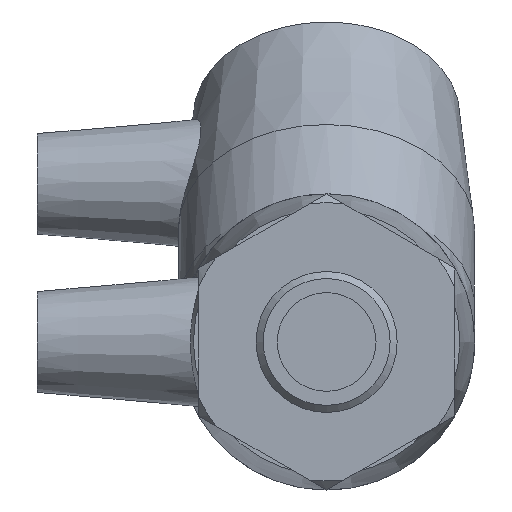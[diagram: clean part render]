
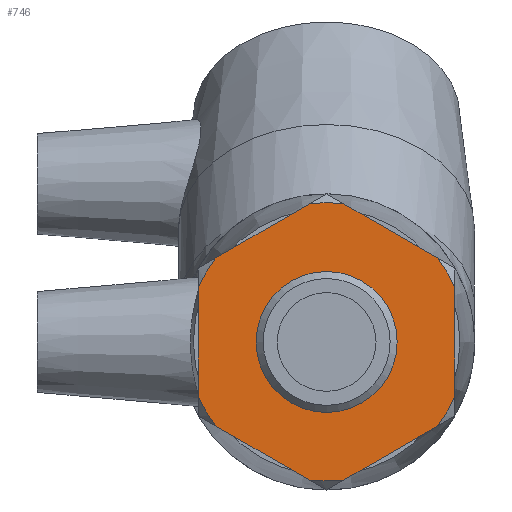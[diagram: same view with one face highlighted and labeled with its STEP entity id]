
A CAD part, left-side view. The second image highlights one B-rep face of the part: STEP entity #746.
In plain terms, the highlighted planar face has unit normal (-1, 0, 0).
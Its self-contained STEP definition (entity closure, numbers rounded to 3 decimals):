
#19=LINE('',#1163,#37);
#23=LINE('',#1187,#41);
#26=LINE('',#1209,#44);
#29=LINE('',#1231,#47);
#34=LINE('',#1268,#52);
#36=LINE('',#1287,#54);
#37=VECTOR('',#926,16.083);
#41=VECTOR('',#932,16.083);
#44=VECTOR('',#937,16.083);
#47=VECTOR('',#942,16.083);
#52=VECTOR('',#949,16.083);
#54=VECTOR('',#953,16.083);
#101=PLANE('',#813);
#121=FACE_BOUND('',#228,.T.);
#165=FACE_OUTER_BOUND('',#227,.T.);
#227=EDGE_LOOP('',(#584,#585,#586,#587,#588,#589,#590,#591,#592,#593,#594,
#595));
#228=EDGE_LOOP('',(#596));
#315=CIRCLE('',#806,10.478);
#316=CIRCLE('',#814,20.68);
#317=CIRCLE('',#815,20.68);
#318=CIRCLE('',#816,20.68);
#319=CIRCLE('',#817,20.68);
#320=CIRCLE('',#818,20.68);
#321=CIRCLE('',#819,20.68);
#364=VERTEX_POINT('',#1154);
#365=VERTEX_POINT('',#1157);
#367=VERTEX_POINT('',#1162);
#373=VERTEX_POINT('',#1182);
#374=VERTEX_POINT('',#1186);
#379=VERTEX_POINT('',#1204);
#380=VERTEX_POINT('',#1208);
#385=VERTEX_POINT('',#1226);
#386=VERTEX_POINT('',#1230);
#392=VERTEX_POINT('',#1249);
#396=VERTEX_POINT('',#1264);
#397=VERTEX_POINT('',#1270);
#400=VERTEX_POINT('',#1283);
#439=EDGE_CURVE('',#364,#364,#315,.T.);
#441=EDGE_CURVE('',#367,#365,#19,.T.);
#449=EDGE_CURVE('',#374,#373,#23,.T.);
#456=EDGE_CURVE('',#380,#379,#26,.T.);
#463=EDGE_CURVE('',#386,#385,#29,.T.);
#475=EDGE_CURVE('',#392,#396,#34,.T.);
#481=EDGE_CURVE('',#397,#400,#36,.T.);
#482=EDGE_CURVE('',#392,#400,#316,.T.);
#483=EDGE_CURVE('',#386,#396,#317,.T.);
#484=EDGE_CURVE('',#380,#385,#318,.T.);
#485=EDGE_CURVE('',#374,#379,#319,.T.);
#486=EDGE_CURVE('',#367,#373,#320,.T.);
#487=EDGE_CURVE('',#397,#365,#321,.T.);
#584=ORIENTED_EDGE('',*,*,#481,.T.);
#585=ORIENTED_EDGE('',*,*,#482,.F.);
#586=ORIENTED_EDGE('',*,*,#475,.T.);
#587=ORIENTED_EDGE('',*,*,#483,.F.);
#588=ORIENTED_EDGE('',*,*,#463,.T.);
#589=ORIENTED_EDGE('',*,*,#484,.F.);
#590=ORIENTED_EDGE('',*,*,#456,.T.);
#591=ORIENTED_EDGE('',*,*,#485,.F.);
#592=ORIENTED_EDGE('',*,*,#449,.T.);
#593=ORIENTED_EDGE('',*,*,#486,.F.);
#594=ORIENTED_EDGE('',*,*,#441,.T.);
#595=ORIENTED_EDGE('',*,*,#487,.F.);
#596=ORIENTED_EDGE('',*,*,#439,.T.);
#746=ADVANCED_FACE('',(#165,#121),#101,.T.);
#806=AXIS2_PLACEMENT_3D('',#1155,#922,#923);
#813=AXIS2_PLACEMENT_3D('',#1288,#954,#955);
#814=AXIS2_PLACEMENT_3D('',#1289,#956,#957);
#815=AXIS2_PLACEMENT_3D('',#1290,#958,#959);
#816=AXIS2_PLACEMENT_3D('',#1291,#960,#961);
#817=AXIS2_PLACEMENT_3D('',#1292,#962,#963);
#818=AXIS2_PLACEMENT_3D('',#1293,#964,#965);
#819=AXIS2_PLACEMENT_3D('',#1294,#966,#967);
#922=DIRECTION('center_axis',(1.,0.,0.));
#923=DIRECTION('ref_axis',(0.,0.,-1.));
#926=DIRECTION('',(0.,0.,-1.));
#932=DIRECTION('',(0.,0.866,-0.5));
#937=DIRECTION('',(0.,0.866,0.5));
#942=DIRECTION('',(0.,0.,1.));
#949=DIRECTION('',(0.,-0.866,0.5));
#953=DIRECTION('',(0.,-0.866,-0.5));
#954=DIRECTION('center_axis',(-1.,0.,0.));
#955=DIRECTION('ref_axis',(0.,0.,1.));
#956=DIRECTION('center_axis',(1.,0.,0.));
#957=DIRECTION('ref_axis',(0.,0.,1.));
#958=DIRECTION('center_axis',(1.,0.,0.));
#959=DIRECTION('ref_axis',(0.,0.,1.));
#960=DIRECTION('center_axis',(1.,0.,0.));
#961=DIRECTION('ref_axis',(0.,0.,1.));
#962=DIRECTION('center_axis',(1.,0.,0.));
#963=DIRECTION('ref_axis',(0.,0.,1.));
#964=DIRECTION('center_axis',(1.,0.,0.));
#965=DIRECTION('ref_axis',(0.,0.,1.));
#966=DIRECTION('center_axis',(1.,0.,0.));
#967=DIRECTION('ref_axis',(0.,0.,1.));
#1154=CARTESIAN_POINT('',(-54.798,0.,-10.478));
#1155=CARTESIAN_POINT('Origin',(-54.798,0.,0.));
#1157=CARTESIAN_POINT('',(-54.798,19.053,-8.041));
#1162=CARTESIAN_POINT('',(-54.798,19.053,8.041));
#1163=CARTESIAN_POINT('',(-54.798,19.053,-16.5));
#1182=CARTESIAN_POINT('',(-54.798,16.49,12.479));
#1186=CARTESIAN_POINT('',(-54.798,2.562,20.521));
#1187=CARTESIAN_POINT('',(-54.798,19.053,11.));
#1204=CARTESIAN_POINT('',(-54.798,-2.562,20.521));
#1208=CARTESIAN_POINT('',(-54.798,-16.49,12.479));
#1209=CARTESIAN_POINT('',(-54.798,-9.526,16.5));
#1226=CARTESIAN_POINT('',(-54.798,-19.053,8.041));
#1230=CARTESIAN_POINT('',(-54.798,-19.053,-8.041));
#1231=CARTESIAN_POINT('',(-54.798,-19.053,-5.5));
#1249=CARTESIAN_POINT('',(-54.798,-2.562,-20.521));
#1264=CARTESIAN_POINT('',(-54.798,-16.49,-12.479));
#1268=CARTESIAN_POINT('',(-54.798,-9.526,-16.5));
#1270=CARTESIAN_POINT('',(-54.798,16.49,-12.479));
#1283=CARTESIAN_POINT('',(-54.798,2.562,-20.521));
#1287=CARTESIAN_POINT('',(-54.798,0.,-22.));
#1288=CARTESIAN_POINT('Origin',(-54.798,0.,-22.));
#1289=CARTESIAN_POINT('Origin',(-54.798,0.,0.));
#1290=CARTESIAN_POINT('Origin',(-54.798,0.,0.));
#1291=CARTESIAN_POINT('Origin',(-54.798,0.,0.));
#1292=CARTESIAN_POINT('Origin',(-54.798,0.,0.));
#1293=CARTESIAN_POINT('Origin',(-54.798,0.,0.));
#1294=CARTESIAN_POINT('Origin',(-54.798,0.,0.));
